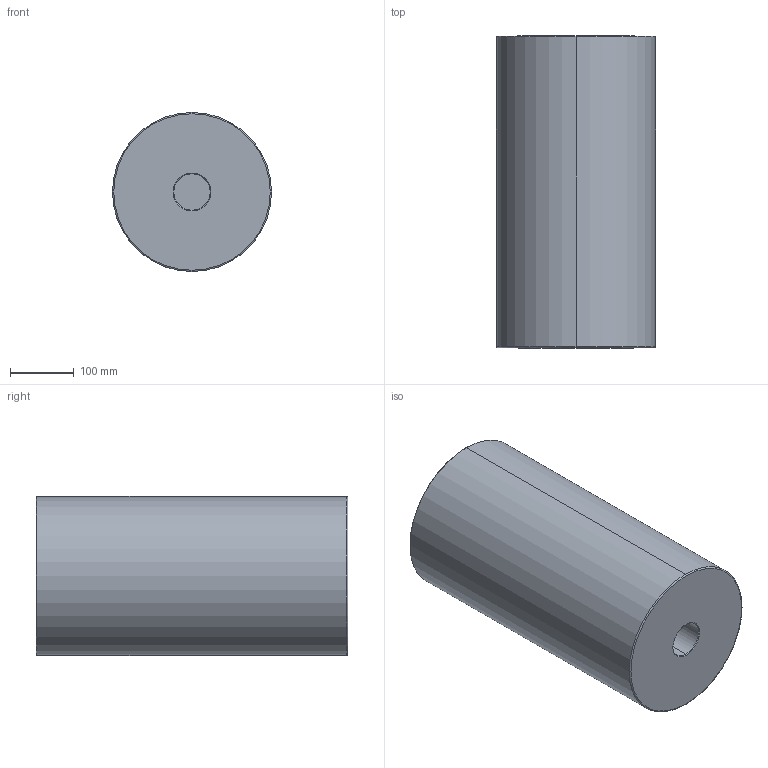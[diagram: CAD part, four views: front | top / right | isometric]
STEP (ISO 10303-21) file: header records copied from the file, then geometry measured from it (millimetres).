
FILE_DESCRIPTION (( 'STEP AP214' ), '1' );
FILE_NAME ('U100A01X1-PC.STEP', '2025-04-10T10:37:17', ( '' ), ( '' ), 'SwSTEP 2.0', 'SolidWorks 2024', '' );
FILE_SCHEMA (( 'AUTOMOTIVE_DESIGN' ));
Length unit declared in the file: millimetre
Products named in the file (1): U100A01X1-PC
Bounding box: 250 x 490 x 250 mm (x, y, z)
Volume: 23128835.4 mm3; surface area: 550190.6 mm2
Topology: 2 solids, 2 shells, 136 faces, 322 edges, 194 vertices
Faces by surface type: plane 46, cylinder 45, cone 33, torus 12
Entity records: 5539 total; most frequent: CARTESIAN_POINT 799, DIRECTION 723, ORIENTED_EDGE 644, EDGE_CURVE 322, AXIS2_PLACEMENT_3D 292, VERTEX_POINT 194, CIRCLE 155, EDGE_LOOP 152
